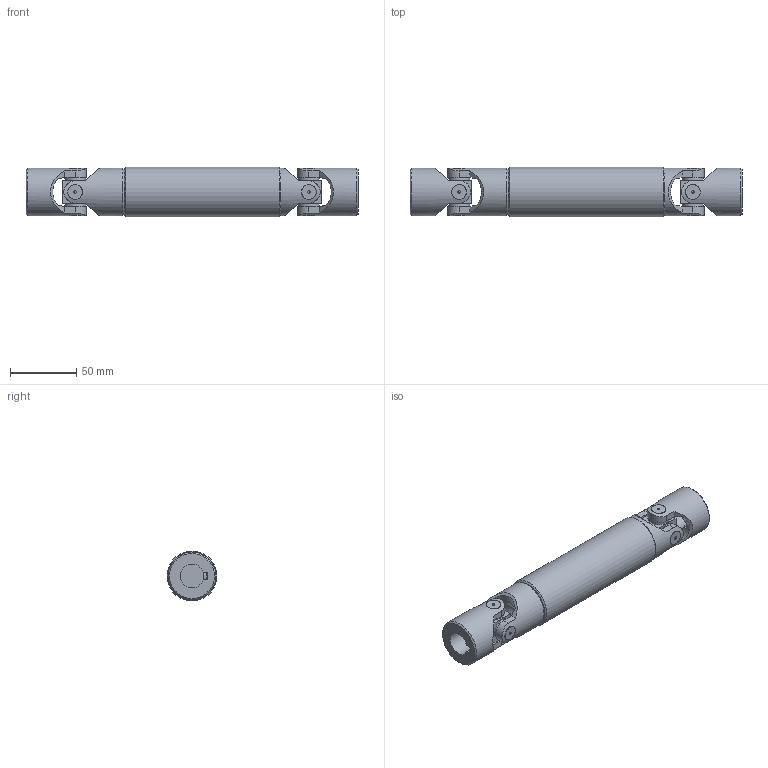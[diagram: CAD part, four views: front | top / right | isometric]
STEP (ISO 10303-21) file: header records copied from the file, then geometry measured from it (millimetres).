
FILE_DESCRIPTION(/* description */ (''),/* implementation_level */ '2;1');
FILE_NAME(/* name */ '\\SRV2016\Societa\Stefano\Disegni 3D\00Catalogo 3D\03Trasmissioni standard GA\2GA15\2GA15_SG0A1815.stp',/* time_stamp */ '2022-02-16T16:34:20+01:00',/* author */ ('acquisti'),/* organization */ (''),/* preprocessor_version */ 'ST-DEVELOPER v15.6',/* originating_system */ 'Autodesk Inventor 2015',/* authorisation */ '');
FILE_SCHEMA (('AUTOMOTIVE_DESIGN { 1 0 10303 214 3 1 1 }'));
Length unit declared in the file: millimetre
Products named in the file (5): 2G MOC; 2G SFE; 2GA15 LAI; 2GA15 LCI; 2GA15_SG0A1815
Assembly tree (6 placements, depth 2):
  2GA15_SG0A1815
    2G MOC  x2
    2G SFE  x2
    2GA15 LAI
    2GA15 LCI
Bounding box: 250 x 37.5 x 37.5 mm (x, y, z)
Volume: 189999.1 mm3; surface area: 63334.5 mm2
Topology: 6 solids, 6 shells, 228 faces, 561 edges, 369 vertices
Faces by surface type: plane 106, cylinder 93, cone 25, torus 4
Full cylindrical faces by diameter (mm): 2 x8, 16 x8, 18 x1, 20 x2, 31 x1, 36 x4, 37.5 x1
Entity records: 5813 total; most frequent: CARTESIAN_POINT 1703, DIRECTION 823, ORIENTED_EDGE 820, EDGE_CURVE 410, AXIS2_PLACEMENT_3D 335, VERTEX_POINT 286, EDGE_LOOP 224, FACE_OUTER_BOUND 176
